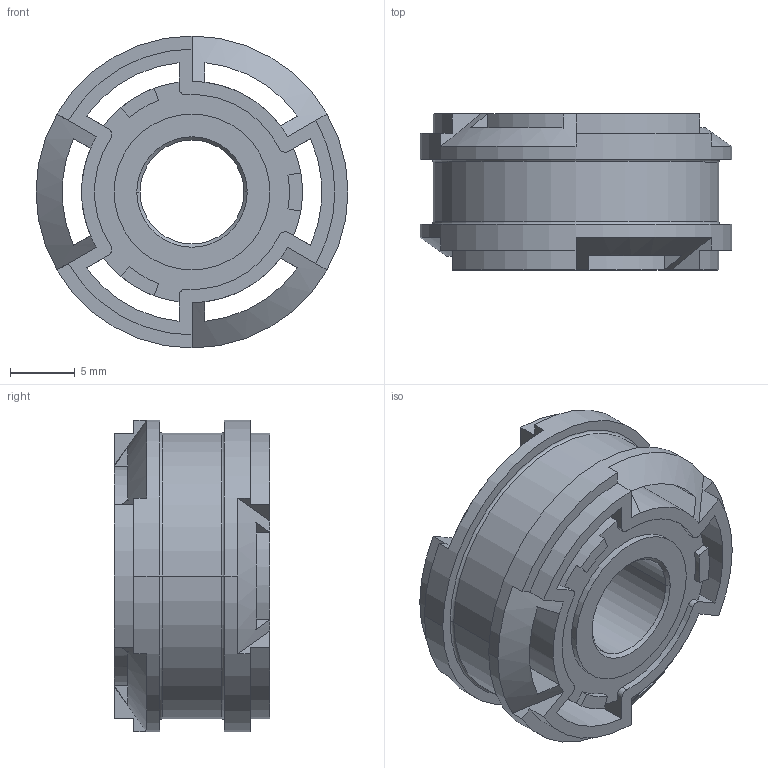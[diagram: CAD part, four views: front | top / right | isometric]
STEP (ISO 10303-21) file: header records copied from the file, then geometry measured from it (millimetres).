
FILE_DESCRIPTION(('FreeCAD Model'),'2;1');
FILE_NAME('Open CASCADE Shape Model','2026-07-02T19:36:10',(''),(''), 'Open CASCADE STEP processor 7.8','FreeCAD','Unknown');
FILE_SCHEMA(('AP242_MANAGED_MODEL_BASED_3D_ENGINEERING_MIM_LF. {1 0 10303 442 1 1 4 }'));
Length unit declared in the file: millimetre
Products named in the file (1): 75T0018
Bounding box: 24 x 12 x 24 mm (x, y, z)
Volume: 3191.4 mm3; surface area: 3172 mm2
Topology: 1 solids, 1 shells, 124 faces, 364 edges, 236 vertices
Faces by surface type: plane 56, cylinder 54, cone 10, torus 4
Entity records: 4250 total; most frequent: CARTESIAN_POINT 785, DIRECTION 758, ORIENTED_EDGE 728, EDGE_CURVE 364, AXIS2_PLACEMENT_3D 281, VERTEX_POINT 236, LINE 196, VECTOR 196
